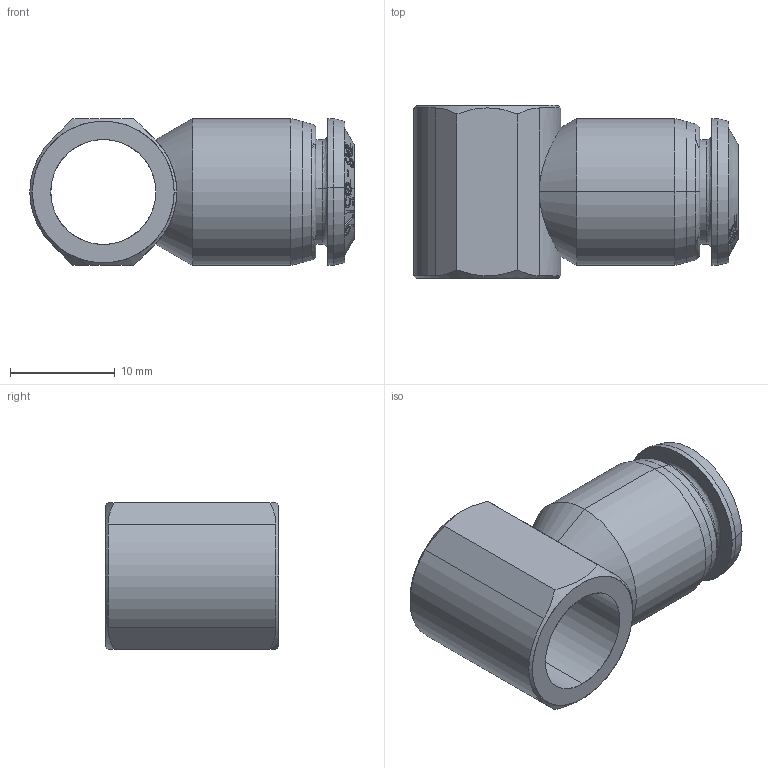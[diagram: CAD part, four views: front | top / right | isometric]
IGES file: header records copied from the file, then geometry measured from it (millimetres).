
Start section: SolidWorks IGES file using analytic representation for surfaces
Global section: file name: K:\Disegni Esecutivi\ALPHA TECHNOLOGIES\85000\Assiemi-85000\85500\IGES\8550000013A.IGS; native system: SolidWorks 2016; preprocessor: SolidWorks 2016; author: cad06; date: 200520.132332; units: millimetre
Bounding box: 30.9 x 16.5 x 14 mm (x, y, z)
Surface area: 2745.3 mm2 (no closed solid volume)
Topology: 0 solids, 0 shells, 160 faces, 1822 edges, 1822 vertices
Faces by surface type: bspline 113, revolution 47
